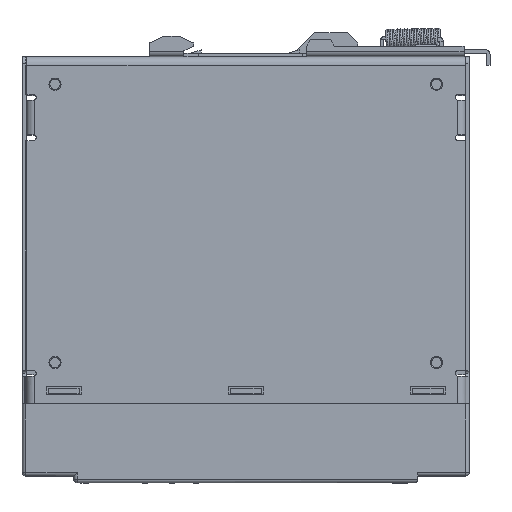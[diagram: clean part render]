
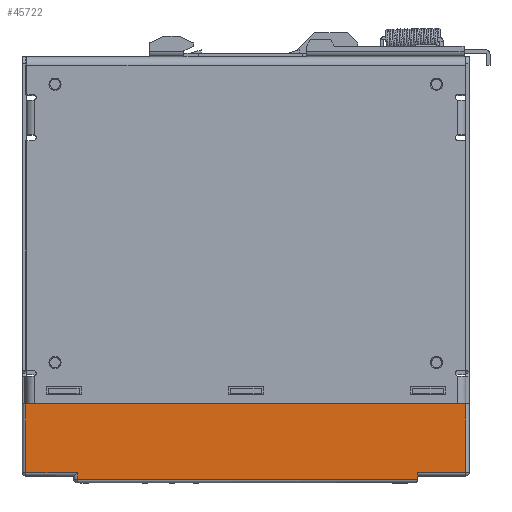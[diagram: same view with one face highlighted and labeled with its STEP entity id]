
A CAD part, left-side view. The second image highlights one B-rep face of the part: STEP entity #45722.
In plain terms, the highlighted planar face has unit normal (-1, 0, 0) as drawn and (0, 0, -1) by its records, which use the part's own axes.
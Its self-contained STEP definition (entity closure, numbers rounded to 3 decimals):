
#39654=DIRECTION('',(-1.,0.,0.));
#39655=VECTOR('',#39654,128.);
#39656=CARTESIAN_POINT('',(64.,10.5,-25.));
#39657=LINE('',#39656,#39655);
#40550=DIRECTION('',(0.,-1.,0.));
#40551=VECTOR('',#40550,20.);
#40552=CARTESIAN_POINT('',(64.,10.5,-25.));
#40553=LINE('',#40552,#40551);
#40557=DIRECTION('',(0.,-1.,0.));
#40558=VECTOR('',#40557,20.);
#40559=CARTESIAN_POINT('',(-64.,10.5,-25.));
#40560=LINE('',#40559,#40558);
#40564=DIRECTION('',(1.,0.,0.));
#40565=VECTOR('',#40564,14.);
#40566=CARTESIAN_POINT('',(-64.,-9.5,-25.));
#40567=LINE('',#40566,#40565);
#40571=DIRECTION('',(1.,0.,0.));
#40572=VECTOR('',#40571,99.);
#40573=CARTESIAN_POINT('',(-50.,-11.5,-25.));
#40574=LINE('',#40573,#40572);
#40578=DIRECTION('',(0.,1.,0.));
#40579=VECTOR('',#40578,2.);
#40580=CARTESIAN_POINT('',(49.,-11.5,-25.));
#40581=LINE('',#40580,#40579);
#40585=DIRECTION('',(1.,0.,0.));
#40586=VECTOR('',#40585,15.);
#40587=CARTESIAN_POINT('',(49.,-9.5,-25.));
#40588=LINE('',#40587,#40586);
#42005=DIRECTION('',(0.,1.,0.));
#42006=VECTOR('',#42005,2.);
#42007=CARTESIAN_POINT('',(-50.,-11.5,-25.));
#42008=LINE('',#42007,#42006);
#43190=CARTESIAN_POINT('',(64.,10.5,-25.));
#43192=VERTEX_POINT('',#43190);
#43193=CARTESIAN_POINT('',(64.,-9.5,-25.));
#43194=VERTEX_POINT('',#43193);
#43197=CARTESIAN_POINT('',(-50.,-11.5,-25.));
#43198=CARTESIAN_POINT('',(49.,-11.5,-25.));
#43199=VERTEX_POINT('',#43197);
#43200=VERTEX_POINT('',#43198);
#43209=CARTESIAN_POINT('',(49.,-9.5,-25.));
#43210=VERTEX_POINT('',#43209);
#43229=CARTESIAN_POINT('',(-64.,-9.5,-25.));
#43230=CARTESIAN_POINT('',(-50.,-9.5,-25.));
#43231=VERTEX_POINT('',#43229);
#43232=VERTEX_POINT('',#43230);
#43237=CARTESIAN_POINT('',(-64.,10.5,-25.));
#43239=VERTEX_POINT('',#43237);
#45701=CARTESIAN_POINT('',(65.,-10.5,-25.));
#45702=DIRECTION('',(0.,0.,-1.));
#45703=DIRECTION('',(-1.,0.,0.));
#45704=AXIS2_PLACEMENT_3D('',#45701,#45702,#45703);
#45705=PLANE('',#45704);
#45707=ORIENTED_EDGE('',*,*,#45706,.F.);
#45708=ORIENTED_EDGE('',*,*,#44968,.T.);
#45710=ORIENTED_EDGE('',*,*,#45709,.T.);
#45712=ORIENTED_EDGE('',*,*,#45711,.T.);
#45714=ORIENTED_EDGE('',*,*,#45713,.F.);
#45716=ORIENTED_EDGE('',*,*,#45715,.T.);
#45718=ORIENTED_EDGE('',*,*,#45717,.T.);
#45719=ORIENTED_EDGE('',*,*,#45694,.T.);
#45720=EDGE_LOOP('',(#45707,#45708,#45710,#45712,#45714,#45716,#45718,#45719));
#45721=FACE_OUTER_BOUND('',#45720,.F.);
#44968=EDGE_CURVE('',#43192,#43239,#39657,.T.);
#45694=EDGE_CURVE('',#43210,#43194,#40588,.T.);
#45706=EDGE_CURVE('',#43192,#43194,#40553,.T.);
#45709=EDGE_CURVE('',#43239,#43231,#40560,.T.);
#45711=EDGE_CURVE('',#43231,#43232,#40567,.T.);
#45713=EDGE_CURVE('',#43199,#43232,#42008,.T.);
#45715=EDGE_CURVE('',#43199,#43200,#40574,.T.);
#45717=EDGE_CURVE('',#43200,#43210,#40581,.T.);
#45722=ADVANCED_FACE('',(#45721),#45705,.T.);
